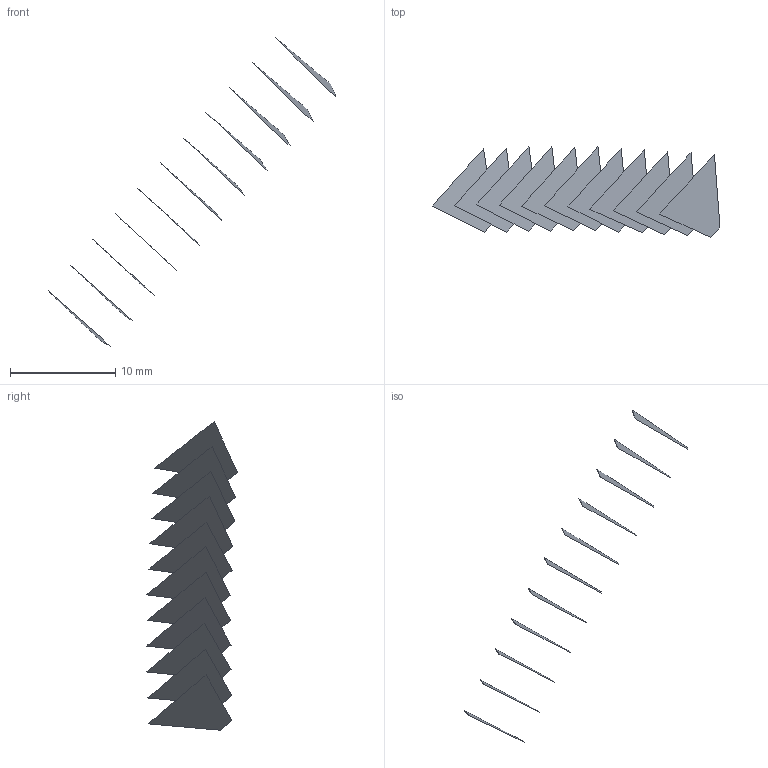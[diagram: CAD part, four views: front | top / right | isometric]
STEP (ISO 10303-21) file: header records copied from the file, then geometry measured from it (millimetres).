
FILE_DESCRIPTION(('FreeCAD Model'),'2;1');
FILE_NAME('Open CASCADE Shape Model','2022-05-22T07:50:31',('FreeCAD'),( 'FreeCAD'),'Open CASCADE STEP processor 7.5','FreeCAD','Unknown');
FILE_SCHEMA(('AUTOMOTIVE_DESIGN { 1 0 10303 214 1 1 1 1 }'));
Length unit declared in the file: millimetre
Products named in the file (12): Open CASCADE STEP translator 7.5 13; Open CASCADE STEP translator 7.5 13.1; Open CASCADE STEP translator 7.5 13.2; Open CASCADE STEP translator 7.5 13.3; Open CASCADE STEP translator 7.5 13.4; Open CASCADE STEP translator 7.5 13.5; Open CASCADE STEP translator 7.5 13.6; Open CASCADE STEP translator 7.5 13.7; Open CASCADE STEP translator 7.5 13.8; Open CASCADE STEP translator 7.5 13.9; Open CASCADE STEP translator 7.5 13.10; Open CASCADE STEP translator 7.5 13.11
Assembly tree (11 placements, depth 2):
  Open CASCADE STEP translator 7.5 13
    Open CASCADE STEP translator 7.5 13.1
    Open CASCADE STEP translator 7.5 13.2
    Open CASCADE STEP translator 7.5 13.3
    Open CASCADE STEP translator 7.5 13.4
    Open CASCADE STEP translator 7.5 13.5
    Open CASCADE STEP translator 7.5 13.6
    Open CASCADE STEP translator 7.5 13.7
    Open CASCADE STEP translator 7.5 13.8
    Open CASCADE STEP translator 7.5 13.9
    Open CASCADE STEP translator 7.5 13.10
    Open CASCADE STEP translator 7.5 13.11
Bounding box: 27.31 x 8.63 x 29.26 mm (x, y, z)
Surface area: 348.1 mm2 (no closed solid volume)
Topology: 0 solids, 11 shells, 11 faces, 198 edges, 198 vertices
Faces by surface type: bspline 11
Entity records: 2898 total; most frequent: CARTESIAN_POINT 1046, B_SPLINE_CURVE_WITH_KNOTS 396, ORIENTED_EDGE 198, EDGE_CURVE 198, VERTEX_POINT 198, SURFACE_CURVE 198, PCURVE 198, DEFINITIONAL_REPRESENTATION 198
